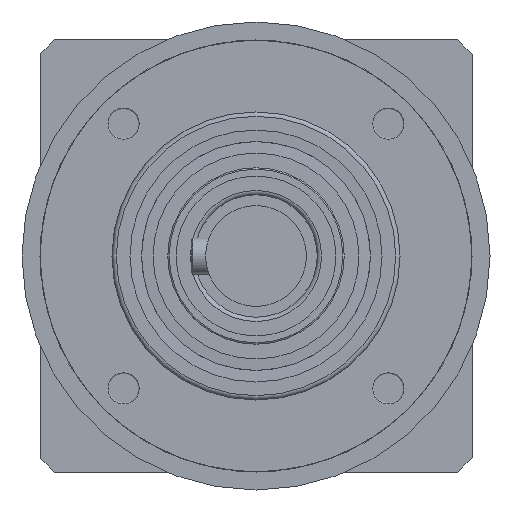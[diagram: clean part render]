
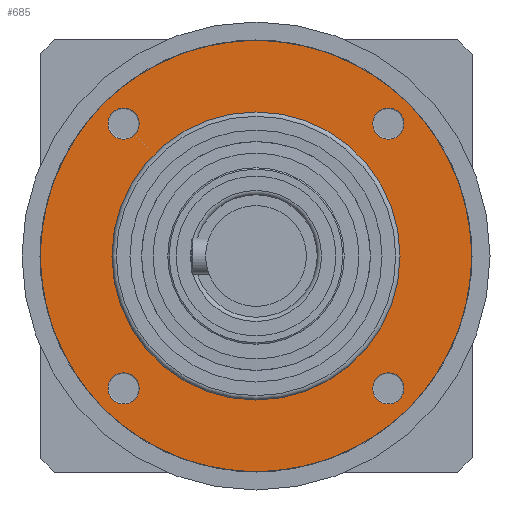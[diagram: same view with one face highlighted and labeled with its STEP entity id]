
A CAD part, left-side view. The second image highlights one B-rep face of the part: STEP entity #685.
In plain terms, the highlighted planar face has unit normal (-1, 0, 0).
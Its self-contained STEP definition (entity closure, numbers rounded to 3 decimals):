
#544=FACE_BOUND('',#1000,.T.);
#545=FACE_BOUND('',#1001,.T.);
#546=FACE_BOUND('',#1002,.T.);
#547=FACE_BOUND('',#1003,.T.);
#548=FACE_BOUND('',#1004,.T.);
#685=ADVANCED_FACE('',(#544,#545,#546,#547,#548),#752,.T.);
#752=PLANE('',#2128);
#1000=EDGE_LOOP('',(#1342));
#1001=EDGE_LOOP('',(#1343));
#1002=EDGE_LOOP('',(#1344));
#1003=EDGE_LOOP('',(#1345));
#1004=EDGE_LOOP('',(#1346));
#1342=ORIENTED_EDGE('',*,*,#1746,.T.);
#1343=ORIENTED_EDGE('',*,*,#1747,.T.);
#1344=ORIENTED_EDGE('',*,*,#1748,.T.);
#1345=ORIENTED_EDGE('',*,*,#1749,.T.);
#1346=ORIENTED_EDGE('',*,*,#1750,.T.);
#1562=VERTEX_POINT('',#3243);
#1563=VERTEX_POINT('',#3245);
#1564=VERTEX_POINT('',#3247);
#1565=VERTEX_POINT('',#3249);
#1566=VERTEX_POINT('',#3251);
#1746=EDGE_CURVE('',#1562,#1562,#1889,.T.);
#1747=EDGE_CURVE('',#1563,#1563,#1890,.T.);
#1748=EDGE_CURVE('',#1564,#1564,#1891,.T.);
#1749=EDGE_CURVE('',#1565,#1565,#1892,.T.);
#1750=EDGE_CURVE('',#1566,#1566,#1893,.T.);
#1889=CIRCLE('',#2123,2.175);
#1890=CIRCLE('',#2124,2.175);
#1891=CIRCLE('',#2125,2.175);
#1892=CIRCLE('',#2126,2.175);
#1893=CIRCLE('',#2127,30.);
#2123=AXIS2_PLACEMENT_3D('',#3242,#2644,#2645);
#2124=AXIS2_PLACEMENT_3D('',#3244,#2646,#2647);
#2125=AXIS2_PLACEMENT_3D('',#3246,#2648,#2649);
#2126=AXIS2_PLACEMENT_3D('',#3248,#2650,#2651);
#2127=AXIS2_PLACEMENT_3D('',#3250,#2652,#2653);
#2128=AXIS2_PLACEMENT_3D('',#3252,#2654,#2655);
#2644=DIRECTION('',(1.,0.,0.));
#2645=DIRECTION('',(0.,-0.707,-0.707));
#2646=DIRECTION('',(1.,0.,0.));
#2647=DIRECTION('',(0.,0.707,-0.707));
#2648=DIRECTION('',(1.,0.,0.));
#2649=DIRECTION('',(0.,0.707,0.707));
#2650=DIRECTION('',(1.,0.,0.));
#2651=DIRECTION('',(0.,-0.707,0.707));
#2652=DIRECTION('',(-1.,0.,0.));
#2653=DIRECTION('',(0.,-0.707,0.707));
#2654=DIRECTION('',(-1.,0.,0.));
#2655=DIRECTION('',(0.,-0.707,0.707));
#3242=CARTESIAN_POINT('',(-74.25,-18.385,18.385));
#3243=CARTESIAN_POINT('',(-74.25,-19.923,16.847));
#3244=CARTESIAN_POINT('',(-74.25,-18.385,-18.385));
#3245=CARTESIAN_POINT('',(-74.25,-16.847,-19.923));
#3246=CARTESIAN_POINT('',(-74.25,18.385,-18.385));
#3247=CARTESIAN_POINT('',(-74.25,19.923,-16.847));
#3248=CARTESIAN_POINT('',(-74.25,18.385,18.385));
#3249=CARTESIAN_POINT('',(-74.25,16.847,19.923));
#3250=CARTESIAN_POINT('',(-74.25,0.,0.));
#3251=CARTESIAN_POINT('',(-74.25,-21.213,21.213));
#3252=CARTESIAN_POINT('',(-74.25,0.,0.));
